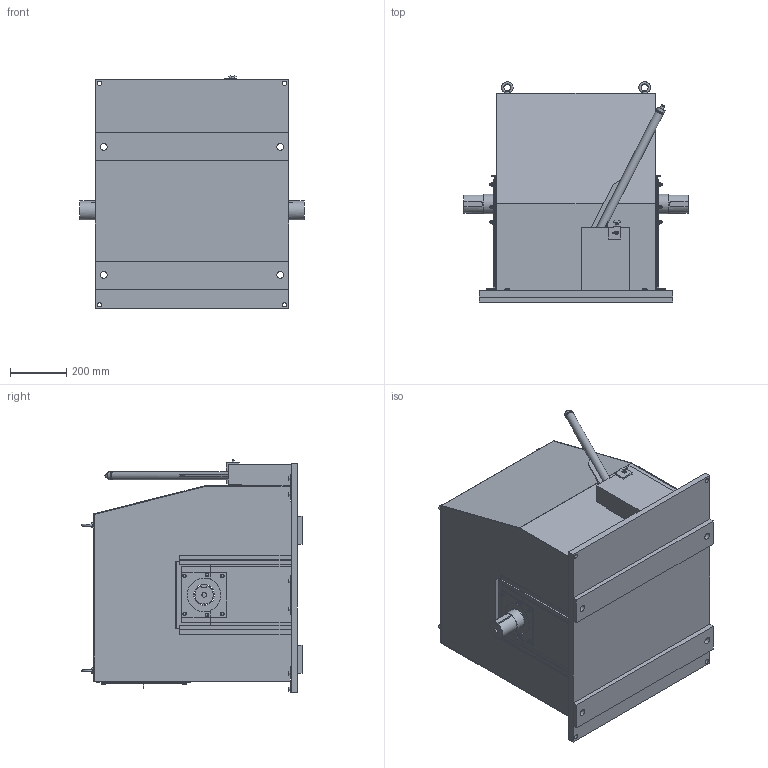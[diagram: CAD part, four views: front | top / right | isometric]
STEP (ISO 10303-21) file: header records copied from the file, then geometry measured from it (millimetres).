
FILE_DESCRIPTION (( 'STEP AP203' ), '1' );
FILE_NAME ('ECE-2115-01_水門用直流電磁ブレーキ.STEP', '2026-03-03T02:03:29', ( '' ), ( '' ), 'SwSTEP 2.0', 'SolidWorks 2025', '' );
FILE_SCHEMA (( 'CONFIG_CONTROL_DESIGN' ));
Length unit declared in the file: millimetre
Products named in the file (1): ECE-2115-01_水門用直流電磁ブレーキ
Bounding box: 800 x 786.47 x 834.9 mm (x, y, z)
Volume: 25554078.5 mm3; surface area: 6097714.1 mm2
Topology: 6 solids, 6 shells, 1083 faces, 2763 edges, 1746 vertices
Faces by surface type: plane 699, cylinder 173, cone 168, sphere 20, torus 19, bspline 4
Full cylindrical faces by diameter (mm): 6 x1, 7 x3, 8.5 x4, 9.5 x1, 10 x16, 13 x14, 16 x5, 18 x12, 24 x9, 25 x1, 30 x2, 65 x2, 70 x5, 75 x2
Entity records: 32991 total; most frequent: CARTESIAN_POINT 7691, ORIENTED_EDGE 5258, DIRECTION 4938, EDGE_CURVE 2629, VECTOR 1732, LINE 1732, VERTEX_POINT 1708, AXIS2_PLACEMENT_3D 1603
